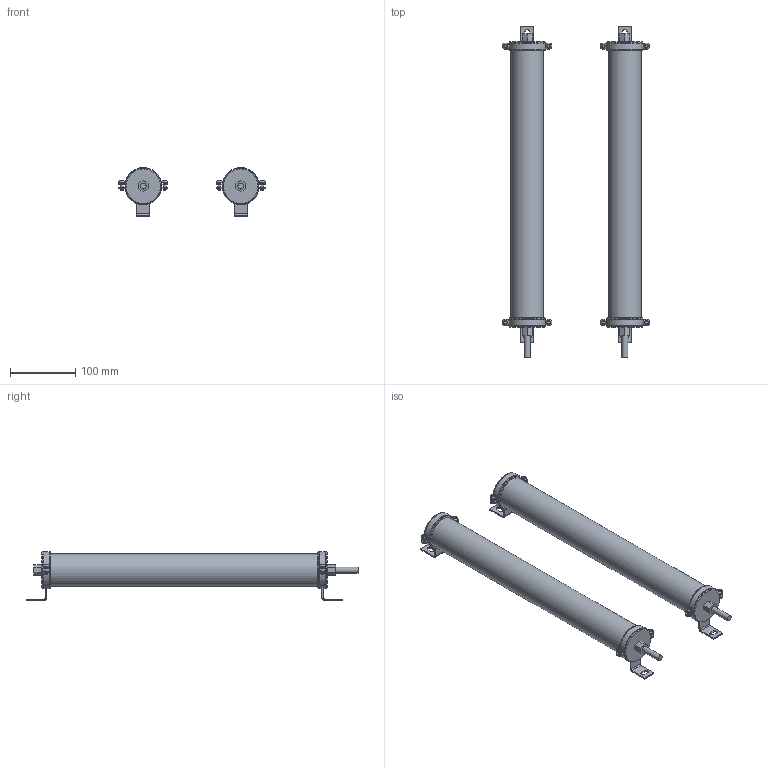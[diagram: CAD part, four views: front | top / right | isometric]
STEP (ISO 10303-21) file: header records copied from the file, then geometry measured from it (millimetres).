
FILE_DESCRIPTION( ( 'STEP AP203' ), '1' );
FILE_NAME( '//expscmdclustefs.cadenas.external/client_exchange/iodir/jobs/output/wkb80972866_no0/STEP/OY442S_2_03.stp', ' ', ( ' ' ), ( ' ' ), 'PSStep 15.0.47', 'PARTsolutions', ' ' );
FILE_SCHEMA( ( 'CONFIG_CONTROL_DESIGN' ) );
Length unit declared in the file: millimetre
Products named in the file (2): OY442S; _OY432S-D
Assembly tree (2 placements, depth 2):
  OY442S
    _OY432S-D  x2
Bounding box: 226 x 510.65 x 74.9 mm (x, y, z)
Volume: 1778152.8 mm3; surface area: 173892.2 mm2
Topology: 2 solids, 2 shells, 394 faces, 978 edges, 650 vertices
Faces by surface type: plane 230, cylinder 140, torus 16, cone 8
Full cylindrical faces by diameter (mm): 4.75 x24, 9 x4, 9.5 x8, 12.08 x2, 50 x2, 53 x4, 56 x8
Entity records: 5677 total; most frequent: DIRECTION 1000, CARTESIAN_POINT 948, ORIENTED_EDGE 872, EDGE_CURVE 436, AXIS2_PLACEMENT_3D 364, VERTEX_POINT 312, EDGE_LOOP 280, LINE 272
